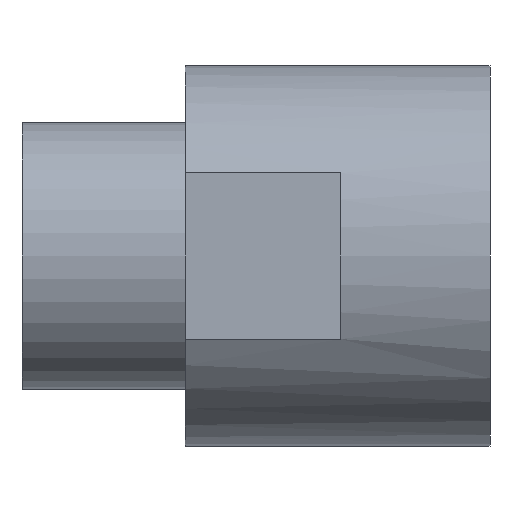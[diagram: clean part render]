
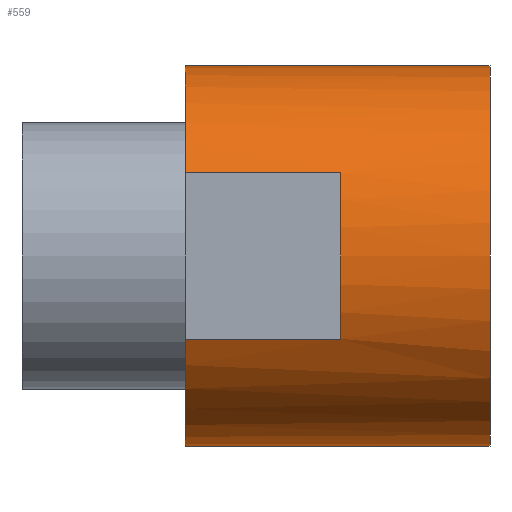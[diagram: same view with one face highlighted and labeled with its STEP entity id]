
A CAD part, front view. The second image highlights one B-rep face of the part: STEP entity #559.
In plain terms, the highlighted cylindrical face has radius 15.875 mm (diameter 31.75 mm), a partial arc.
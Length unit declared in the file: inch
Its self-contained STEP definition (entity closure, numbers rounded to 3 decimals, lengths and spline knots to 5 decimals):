
#21 = EDGE_CURVE ( 'NONE', #480, #478, #476, .T. ) ;
#28 = AXIS2_PLACEMENT_3D ( 'NONE', #241, #182, #149 ) ;
#29 = EDGE_CURVE ( 'NONE', #491, #478, #477, .T. ) ;
#33 = EDGE_CURVE ( 'NONE', #486, #480, #470, .T. ) ;
#35 = EDGE_CURVE ( 'NONE', #490, #404, #468, .T. ) ;
#36 = EDGE_CURVE ( 'NONE', #490, #486, #467, .T. ) ;
#38 = AXIS2_PLACEMENT_3D ( 'NONE', #306, #314, #313 ) ;
#42 = EDGE_CURVE ( 'NONE', #488, #491, #461, .T. ) ;
#46 = EDGE_CURVE ( 'NONE', #488, #378, #456, .T. ) ;
#69 = EDGE_CURVE ( 'NONE', #378, #404, #434, .T. ) ;
#97 = AXIS2_PLACEMENT_3D ( 'NONE', #302, #308, #305 ) ;
#105 = AXIS2_PLACEMENT_3D ( 'NONE', #264, #262, #261 ) ;
#110 = AXIS2_PLACEMENT_3D ( 'NONE', #240, #129, #232 ) ;
#129 = DIRECTION ( 'NONE',  ( 1., 0., 0. ) ) ;
#133 = CARTESIAN_POINT ( 'NONE',  ( -1., 0., -0.625 ) ) ;
#134 = CARTESIAN_POINT ( 'NONE',  ( -1., -0.5625, 0.27243 ) ) ;
#135 = CARTESIAN_POINT ( 'NONE',  ( 0., 0., -0.625 ) ) ;
#137 = CARTESIAN_POINT ( 'NONE',  ( -0.49, -0.5625, 0.27243 ) ) ;
#138 = CARTESIAN_POINT ( 'NONE',  ( -1., -0.5625, -0.27243 ) ) ;
#139 = CARTESIAN_POINT ( 'NONE',  ( -1.63599, -0.5625, -0.27243 ) ) ;
#145 = CARTESIAN_POINT ( 'NONE',  ( -0.49, -0.5625, -0.27243 ) ) ;
#149 = DIRECTION ( 'NONE',  ( 0., 0., 1. ) ) ;
#170 = CARTESIAN_POINT ( 'NONE',  ( 0., 0., 0.625 ) ) ;
#182 = DIRECTION ( 'NONE',  ( -1., 0., 0. ) ) ;
#184 = DIRECTION ( 'NONE',  ( -1., 0., 0. ) ) ;
#185 = CARTESIAN_POINT ( 'NONE',  ( -1.63599, 0., 0.625 ) ) ;
#186 = DIRECTION ( 'NONE',  ( -1., 0., 0. ) ) ;
#202 = CARTESIAN_POINT ( 'NONE',  ( -1.63599, 0., -0.625 ) ) ;
#232 = DIRECTION ( 'NONE',  ( 0., 0., 1. ) ) ;
#240 = CARTESIAN_POINT ( 'NONE',  ( -0.49, 0., 0. ) ) ;
#241 = CARTESIAN_POINT ( 'NONE',  ( -1., 0., 0. ) ) ;
#260 = DIRECTION ( 'NONE',  ( -1., 0., 0. ) ) ;
#261 = DIRECTION ( 'NONE',  ( 0., 0., 1. ) ) ;
#262 = DIRECTION ( 'NONE',  ( -1., 0., 0. ) ) ;
#263 = CARTESIAN_POINT ( 'NONE',  ( -1., 0., 0.625 ) ) ;
#264 = CARTESIAN_POINT ( 'NONE',  ( 0., 0., 0. ) ) ;
#302 = CARTESIAN_POINT ( 'NONE',  ( -1.63599, 0., 0. ) ) ;
#305 = DIRECTION ( 'NONE',  ( 0., 0., 1. ) ) ;
#306 = CARTESIAN_POINT ( 'NONE',  ( -1., 0., 0. ) ) ;
#308 = DIRECTION ( 'NONE',  ( -1., 0., 0. ) ) ;
#313 = DIRECTION ( 'NONE',  ( 0., 0., 1. ) ) ;
#314 = DIRECTION ( 'NONE',  ( -1., 0., 0. ) ) ;
#329 = CARTESIAN_POINT ( 'NONE',  ( -1.63599, -0.5625, 0.27243 ) ) ;
#341 = DIRECTION ( 'NONE',  ( 1., 0., 0. ) ) ;
#350 = ORIENTED_EDGE ( 'NONE', *, *, #42, .F. ) ;
#358 = ORIENTED_EDGE ( 'NONE', *, *, #46, .T. ) ;
#359 = ORIENTED_EDGE ( 'NONE', *, *, #35, .F. ) ;
#378 = VERTEX_POINT ( 'NONE', #170 ) ;
#396 = ORIENTED_EDGE ( 'NONE', *, *, #69, .T. ) ;
#404 = VERTEX_POINT ( 'NONE', #263 ) ;
#406 = EDGE_LOOP ( 'NONE', ( #350, #358, #396, #359, #538, #535, #540, #530 ) ) ;
#431 = VECTOR ( 'NONE', #184, 39.37008 ) ;
#434 = LINE ( 'NONE', #185, #431 ) ;
#456 = CIRCLE ( 'NONE', #105, 0.625 ) ;
#457 = VECTOR ( 'NONE', #186, 39.37008 ) ;
#461 = LINE ( 'NONE', #202, #457 ) ;
#465 = VECTOR ( 'NONE', #341, 39.37008 ) ;
#467 = LINE ( 'NONE', #329, #465 ) ;
#468 = CIRCLE ( 'NONE', #28, 0.625 ) ;
#470 = CIRCLE ( 'NONE', #110, 0.625 ) ;
#475 = VECTOR ( 'NONE', #260, 39.37008 ) ;
#476 = LINE ( 'NONE', #139, #475 ) ;
#477 = CIRCLE ( 'NONE', #38, 0.625 ) ;
#478 = VERTEX_POINT ( 'NONE', #138 ) ;
#480 = VERTEX_POINT ( 'NONE', #145 ) ;
#482 = CYLINDRICAL_SURFACE ( 'NONE', #97, 0.625 ) ;
#486 = VERTEX_POINT ( 'NONE', #137 ) ;
#488 = VERTEX_POINT ( 'NONE', #135 ) ;
#490 = VERTEX_POINT ( 'NONE', #134 ) ;
#491 = VERTEX_POINT ( 'NONE', #133 ) ;
#510 = FACE_OUTER_BOUND ( 'NONE', #406, .T. ) ;
#530 = ORIENTED_EDGE ( 'NONE', *, *, #29, .F. ) ;
#535 = ORIENTED_EDGE ( 'NONE', *, *, #33, .T. ) ;
#538 = ORIENTED_EDGE ( 'NONE', *, *, #36, .T. ) ;
#540 = ORIENTED_EDGE ( 'NONE', *, *, #21, .T. ) ;
#559 = ADVANCED_FACE ( 'NONE', ( #510 ), #482, .T. ) ;
